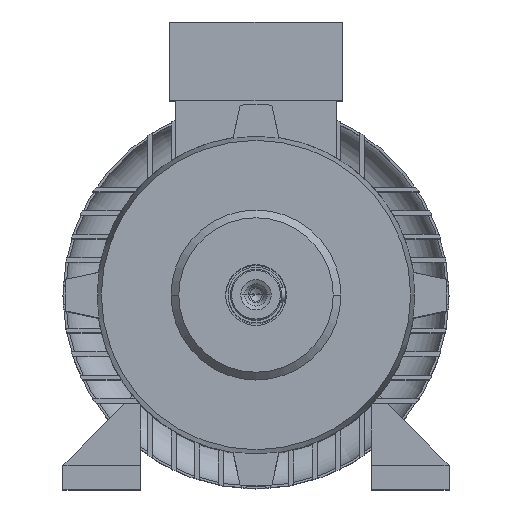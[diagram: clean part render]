
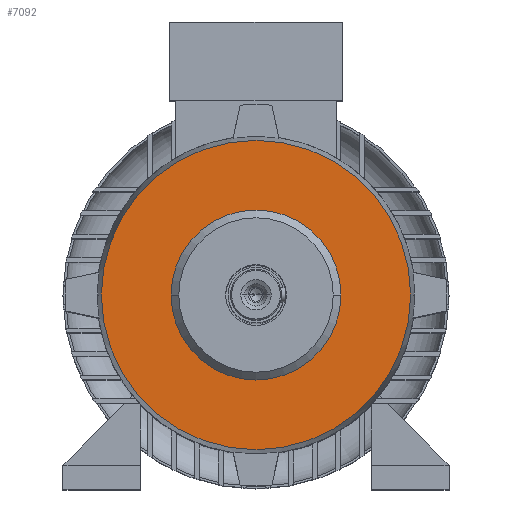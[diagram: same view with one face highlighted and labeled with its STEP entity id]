
A CAD part, top view. The second image highlights one B-rep face of the part: STEP entity #7092.
In plain terms, the highlighted planar face has unit normal (0, 0, 1).
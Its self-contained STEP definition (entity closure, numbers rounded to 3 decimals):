
#414 = AXIS2_PLACEMENT_3D ( 'NONE', #8380, #10596, #1531 ) ;
#422 = CIRCLE ( 'NONE', #414, 70. ) ;
#552 = ORIENTED_EDGE ( 'NONE', *, *, #5877, .T. ) ;
#898 = DIRECTION ( 'NONE',  ( 0., 0., -1. ) ) ;
#1185 = CARTESIAN_POINT ( 'NONE',  ( 0., 127.419, 200.6 ) ) ;
#1410 = DIRECTION ( 'NONE',  ( 0., 0., -1. ) ) ;
#1531 = DIRECTION ( 'NONE',  ( -1., 0., 0. ) ) ;
#1929 = EDGE_CURVE ( 'NONE', #8498, #5286, #9390, .T. ) ;
#2326 = ORIENTED_EDGE ( 'NONE', *, *, #12925, .F. ) ;
#2517 = DIRECTION ( 'NONE',  ( -1., 0., 0. ) ) ;
#3364 = ORIENTED_EDGE ( 'NONE', *, *, #6856, .T. ) ;
#3564 = DIRECTION ( 'NONE',  ( 0., 0., -1. ) ) ;
#3721 = EDGE_LOOP ( 'NONE', ( #6479, #2326 ) ) ;
#4354 = PLANE ( 'NONE',  #12320 ) ;
#4509 = VERTEX_POINT ( 'NONE', #13477 ) ;
#4631 = FACE_BOUND ( 'NONE', #11086, .T. ) ;
#4960 = FACE_OUTER_BOUND ( 'NONE', #3721, .T. ) ;
#5220 = CARTESIAN_POINT ( 'NONE',  ( 0., 0., 200.6 ) ) ;
#5286 = VERTEX_POINT ( 'NONE', #9574 ) ;
#5499 = DIRECTION ( 'NONE',  ( 0., 0., -1. ) ) ;
#5877 = EDGE_CURVE ( 'NONE', #12084, #4509, #13541, .T. ) ;
#6106 = CARTESIAN_POINT ( 'NONE',  ( -127.419, 0., 200.6 ) ) ;
#6479 = ORIENTED_EDGE ( 'NONE', *, *, #1929, .F. ) ;
#6679 = DIRECTION ( 'NONE',  ( -1., 0., 0. ) ) ;
#6700 = DIRECTION ( 'NONE',  ( -1., 0., 0. ) ) ;
#6818 = CARTESIAN_POINT ( 'NONE',  ( 0., 0., 200.6 ) ) ;
#6856 = EDGE_CURVE ( 'NONE', #4509, #12084, #422, .T. ) ;
#7092 = ADVANCED_FACE ( 'NONE', ( #4960, #4631 ), #4354, .F. ) ;
#7253 = AXIS2_PLACEMENT_3D ( 'NONE', #5220, #898, #13972 ) ;
#8380 = CARTESIAN_POINT ( 'NONE',  ( 0., 0., 200.6 ) ) ;
#8498 = VERTEX_POINT ( 'NONE', #6106 ) ;
#8967 = CARTESIAN_POINT ( 'NONE',  ( -70., 0., 200.6 ) ) ;
#9178 = CIRCLE ( 'NONE', #13315, 127.419 ) ;
#9390 = CIRCLE ( 'NONE', #13463, 127.419 ) ;
#9574 = CARTESIAN_POINT ( 'NONE',  ( 127.419, 0., 200.6 ) ) ;
#10596 = DIRECTION ( 'NONE',  ( 0., 0., -1. ) ) ;
#11086 = EDGE_LOOP ( 'NONE', ( #552, #3364 ) ) ;
#12084 = VERTEX_POINT ( 'NONE', #8967 ) ;
#12320 = AXIS2_PLACEMENT_3D ( 'NONE', #1185, #5499, #6679 ) ;
#12925 = EDGE_CURVE ( 'NONE', #5286, #8498, #9178, .T. ) ;
#13315 = AXIS2_PLACEMENT_3D ( 'NONE', #13349, #3564, #6700 ) ;
#13349 = CARTESIAN_POINT ( 'NONE',  ( 0., 0., 200.6 ) ) ;
#13463 = AXIS2_PLACEMENT_3D ( 'NONE', #6818, #1410, #2517 ) ;
#13477 = CARTESIAN_POINT ( 'NONE',  ( 70., 0., 200.6 ) ) ;
#13541 = CIRCLE ( 'NONE', #7253, 70. ) ;
#13972 = DIRECTION ( 'NONE',  ( -1., 0., 0. ) ) ;
